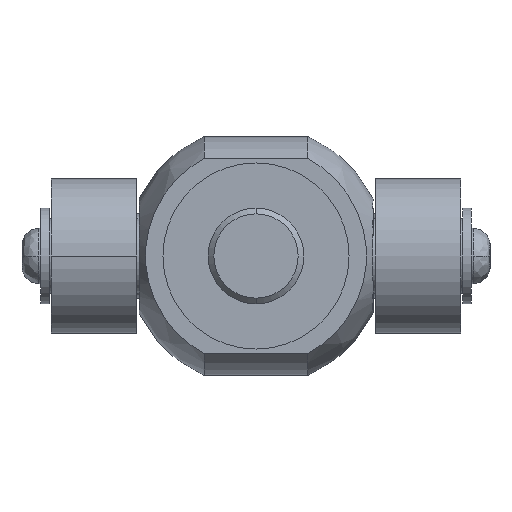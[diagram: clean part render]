
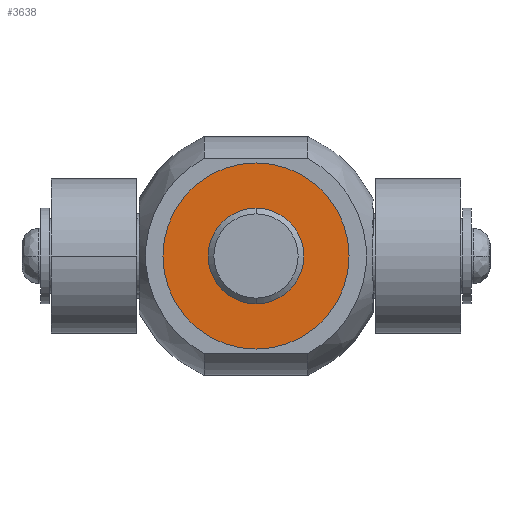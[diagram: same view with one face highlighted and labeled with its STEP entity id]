
A CAD part, front view. The second image highlights one B-rep face of the part: STEP entity #3638.
In plain terms, the highlighted planar face has unit normal (0, -1, 0).
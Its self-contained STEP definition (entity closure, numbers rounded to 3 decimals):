
#404 = CIRCLE ( 'NONE', #405, 35. ) ;
#405 = AXIS2_PLACEMENT_3D ( 'NONE', #406, #407, #408 ) ;
#406 = CARTESIAN_POINT ( 'NONE',  ( 0., -34., 0. ) ) ;
#407 = DIRECTION ( 'NONE',  ( 0., 1., 0. ) ) ;
#408 = DIRECTION ( 'NONE',  ( 0., 0., -1. ) ) ;
#795 = CARTESIAN_POINT ( 'NONE',  ( 0., -34., -18. ) ) ;
#1025 = CIRCLE ( 'NONE', #1026, 18. ) ;
#1026 = AXIS2_PLACEMENT_3D ( 'NONE', #1027, #1028, #1029 ) ;
#1027 = CARTESIAN_POINT ( 'NONE',  ( 0., -34., 0. ) ) ;
#1028 = DIRECTION ( 'NONE',  ( 0., 1., 0. ) ) ;
#1029 = DIRECTION ( 'NONE',  ( 0., 0., -1. ) ) ;
#1318 = CARTESIAN_POINT ( 'NONE',  ( 0., -34., 35. ) ) ;
#1422 = CARTESIAN_POINT ( 'NONE',  ( 0., -34., 18. ) ) ;
#1436 = CIRCLE ( 'NONE', #1437, 18. ) ;
#1437 = AXIS2_PLACEMENT_3D ( 'NONE', #1438, #1439, #1440 ) ;
#1438 = CARTESIAN_POINT ( 'NONE',  ( 0., -34., 0. ) ) ;
#1439 = DIRECTION ( 'NONE',  ( 0., 1., 0. ) ) ;
#1440 = DIRECTION ( 'NONE',  ( 0., 0., -1. ) ) ;
#2272 = VERTEX_POINT ( 'NONE', #1318 ) ;
#2479 = VERTEX_POINT ( 'NONE', #3290 ) ;
#2500 = EDGE_CURVE ( 'NONE', #2272, #2479, #3441, .T. ) ;
#2612 = VERTEX_POINT ( 'NONE', #795 ) ;
#2633 = EDGE_CURVE ( 'NONE', #2612, #2732, #1025, .T. ) ;
#2663 = ORIENTED_EDGE ( 'NONE', *, *, #3837, .F. ) ;
#2706 = EDGE_LOOP ( 'NONE', ( #2663, #3732 ) ) ;
#2732 = VERTEX_POINT ( 'NONE', #1422 ) ;
#2737 = EDGE_CURVE ( 'NONE', #2732, #2612, #1436, .T. ) ;
#2773 = ORIENTED_EDGE ( 'NONE', *, *, #2737, .T. ) ;
#3062 = FACE_BOUND ( 'NONE', #3625, .T. ) ;
#3063 = FACE_OUTER_BOUND ( 'NONE', #2706, .T. ) ;
#3066 = PLANE ( 'NONE',  #3067 ) ;
#3067 = AXIS2_PLACEMENT_3D ( 'NONE', #3068, #3069, #3070 ) ;
#3068 = CARTESIAN_POINT ( 'NONE',  ( 36.4, -34., -36.4 ) ) ;
#3069 = DIRECTION ( 'NONE',  ( 0., 1., 0. ) ) ;
#3070 = DIRECTION ( 'NONE',  ( -1., 0., 0. ) ) ;
#3102 = ORIENTED_EDGE ( 'NONE', *, *, #2633, .T. ) ;
#3290 = CARTESIAN_POINT ( 'NONE',  ( 0., -34., -35. ) ) ;
#3441 = CIRCLE ( 'NONE', #3442, 35. ) ;
#3442 = AXIS2_PLACEMENT_3D ( 'NONE', #3443, #3444, #3445 ) ;
#3443 = CARTESIAN_POINT ( 'NONE',  ( 0., -34., 0. ) ) ;
#3444 = DIRECTION ( 'NONE',  ( 0., 1., 0. ) ) ;
#3445 = DIRECTION ( 'NONE',  ( 0., 0., -1. ) ) ;
#3625 = EDGE_LOOP ( 'NONE', ( #3102, #2773 ) ) ;
#3638 = ADVANCED_FACE ( 'NONE', ( #3062, #3063 ), #3066, .F. ) ;
#3732 = ORIENTED_EDGE ( 'NONE', *, *, #2500, .F. ) ;
#3837 = EDGE_CURVE ( 'NONE', #2479, #2272, #404, .T. ) ;
